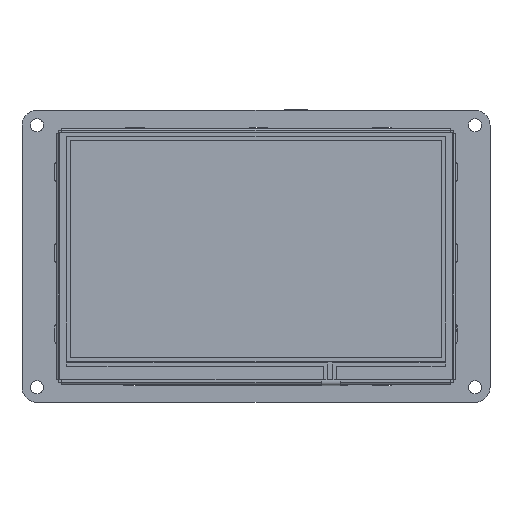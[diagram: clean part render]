
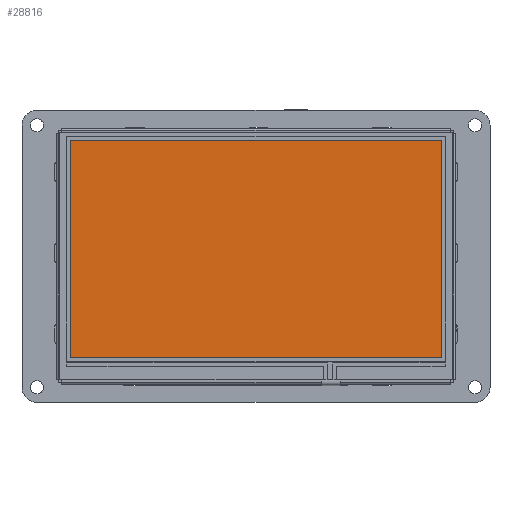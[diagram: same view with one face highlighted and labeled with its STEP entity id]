
A CAD part, front view. The second image highlights one B-rep face of the part: STEP entity #28816.
In plain terms, the highlighted planar face has unit normal (0, -1, 0) as drawn and (0, 1, 0) by its records, which use the part's own axes.
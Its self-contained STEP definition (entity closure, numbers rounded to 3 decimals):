
#605 = CARTESIAN_POINT ( 'NONE',  ( -49.5, 1.5, -27. ) ) ;
#2110 = AXIS2_PLACEMENT_3D ( 'NONE', #49982, #49320, #2514 ) ;
#2514 = DIRECTION ( 'NONE',  ( 1., 0., 0. ) ) ;
#4977 = EDGE_CURVE ( 'NONE', #66451, #22145, #37295, .T. ) ;
#5539 = DIRECTION ( 'NONE',  ( -1., 0., 0. ) ) ;
#5770 = VERTEX_POINT ( 'NONE', #605 ) ;
#7641 = PLANE ( 'NONE',  #2110 ) ;
#9195 = DIRECTION ( 'NONE',  ( 1., 0., 0. ) ) ;
#9884 = ORIENTED_EDGE ( 'NONE', *, *, #55615, .F. ) ;
#10036 = LINE ( 'NONE', #62295, #62307 ) ;
#10096 = VERTEX_POINT ( 'NONE', #29511 ) ;
#14980 = ORIENTED_EDGE ( 'NONE', *, *, #15206, .F. ) ;
#15206 = EDGE_CURVE ( 'NONE', #5770, #10096, #55992, .T. ) ;
#17010 = CARTESIAN_POINT ( 'NONE',  ( -49.5, 1.5, 0. ) ) ;
#18671 = VECTOR ( 'NONE', #34331, 1000. ) ;
#22145 = VERTEX_POINT ( 'NONE', #29283 ) ;
#25073 = DIRECTION ( 'NONE',  ( 0., 0., 1. ) ) ;
#28816 = ADVANCED_FACE ( 'NONE', ( #54449 ), #7641, .T. ) ;
#29283 = CARTESIAN_POINT ( 'NONE',  ( -49.5, 1.5, 31. ) ) ;
#29511 = CARTESIAN_POINT ( 'NONE',  ( 49.5, 1.5, -27. ) ) ;
#30697 = CARTESIAN_POINT ( 'NONE',  ( 0., 1.5, -27. ) ) ;
#30773 = VECTOR ( 'NONE', #5539, 1000. ) ;
#31354 = EDGE_LOOP ( 'NONE', ( #9884, #41169, #32886, #14980 ) ) ;
#32886 = ORIENTED_EDGE ( 'NONE', *, *, #55710, .F. ) ;
#34331 = DIRECTION ( 'NONE',  ( 0., 0., -1. ) ) ;
#34987 = LINE ( 'NONE', #17010, #18671 ) ;
#37295 = LINE ( 'NONE', #42102, #30773 ) ;
#41169 = ORIENTED_EDGE ( 'NONE', *, *, #4977, .F. ) ;
#42102 = CARTESIAN_POINT ( 'NONE',  ( 0., 1.5, 31. ) ) ;
#49320 = DIRECTION ( 'NONE',  ( 0., 1., 0. ) ) ;
#49510 = CARTESIAN_POINT ( 'NONE',  ( 49.5, 1.5, 31. ) ) ;
#49982 = CARTESIAN_POINT ( 'NONE',  ( 0., 1.5, 0. ) ) ;
#54449 = FACE_OUTER_BOUND ( 'NONE', #31354, .T. ) ;
#55615 = EDGE_CURVE ( 'NONE', #22145, #5770, #34987, .T. ) ;
#55710 = EDGE_CURVE ( 'NONE', #10096, #66451, #10036, .T. ) ;
#55992 = LINE ( 'NONE', #30697, #65523 ) ;
#62295 = CARTESIAN_POINT ( 'NONE',  ( 49.5, 1.5, 0. ) ) ;
#62307 = VECTOR ( 'NONE', #25073, 1000. ) ;
#65523 = VECTOR ( 'NONE', #9195, 1000. ) ;
#66451 = VERTEX_POINT ( 'NONE', #49510 ) ;
